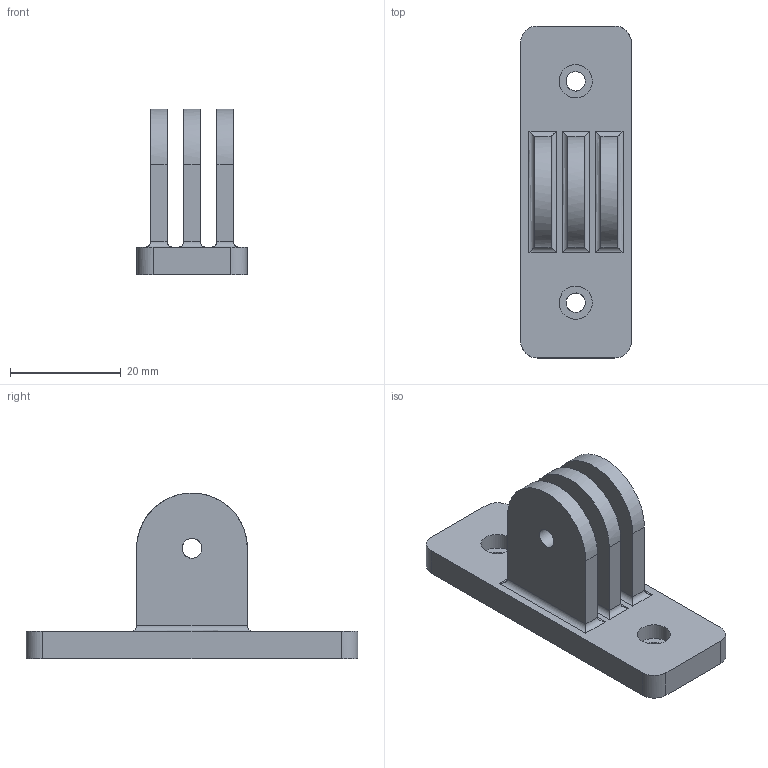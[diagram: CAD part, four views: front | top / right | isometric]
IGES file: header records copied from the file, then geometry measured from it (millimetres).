
Global section: file name: d435_mount_vertical v2; native system: unknown; preprocessor: unknown; author: unknown; organization: unknown; date: 20200329.203115; units: millimetre
Bounding box: 20 x 60 x 30 mm (x, y, z)
Volume: 9806.5 mm3; surface area: 6376.3 mm2
Topology: 1 solids, 1 shells, 46 faces, 107 edges, 68 vertices
Faces by surface type: bspline 46
